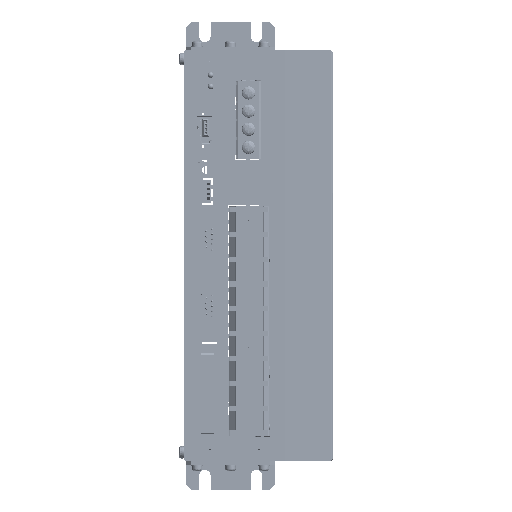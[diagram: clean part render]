
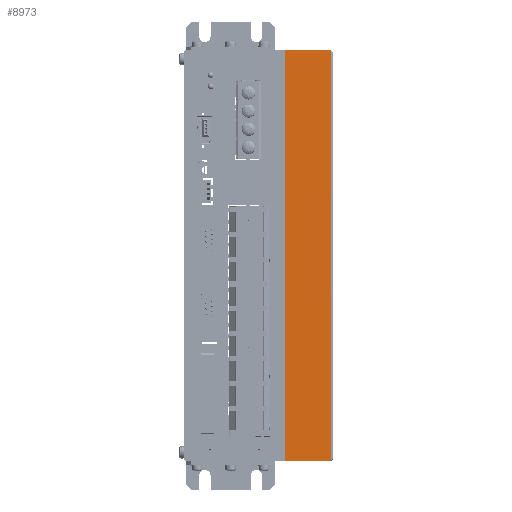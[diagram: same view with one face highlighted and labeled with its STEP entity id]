
A CAD part, top view. The second image highlights one B-rep face of the part: STEP entity #8973.
In plain terms, the highlighted planar face has unit normal (0.01, 0, 1).
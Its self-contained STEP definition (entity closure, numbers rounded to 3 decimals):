
#1729=CARTESIAN_POINT('',(62.209,-98.027,164.172));
#1730=VERTEX_POINT('',#1729);
#1738=CARTESIAN_POINT('',(61.951,-98.285,164.175));
#1739=VERTEX_POINT('',#1738);
#1740=CARTESIAN_POINT('',(62.209,-98.027,164.172));
#1741=DIRECTION('',(-0.707,-0.707,0.007));
#1742=VECTOR('',#1741,0.364);
#1743=LINE('',#1740,#1742);
#1744=EDGE_CURVE('',#1730,#1739,#1743,.T.);
#3046=CARTESIAN_POINT('',(61.951,116.715,164.175));
#3047=VERTEX_POINT('',#3046);
#3054=CARTESIAN_POINT('',(62.209,116.458,164.172));
#3055=VERTEX_POINT('',#3054);
#3056=CARTESIAN_POINT('',(61.951,116.715,164.175));
#3057=DIRECTION('',(0.707,-0.707,-0.007));
#3058=VECTOR('',#3057,0.364);
#3059=LINE('',#3056,#3058);
#3060=EDGE_CURVE('',#3047,#3055,#3059,.T.);
#5673=CARTESIAN_POINT('',(62.209,-98.027,164.172));
#5674=DIRECTION('',(0.,1.,0.));
#5675=VECTOR('',#5674,214.485);
#5676=LINE('',#5673,#5675);
#5677=EDGE_CURVE('',#1730,#3055,#5676,.T.);
#5713=CARTESIAN_POINT('',(37.951,116.715,164.415));
#5714=VERTEX_POINT('',#5713);
#5722=CARTESIAN_POINT('',(37.951,-98.285,164.415));
#5723=VERTEX_POINT('',#5722);
#5730=CARTESIAN_POINT('',(37.951,-98.285,164.415));
#5731=DIRECTION('',(0.,1.,0.));
#5732=VECTOR('',#5731,215.);
#5733=LINE('',#5730,#5732);
#5734=EDGE_CURVE('',#5723,#5714,#5733,.T.);
#8950=CARTESIAN_POINT('',(50.08,-98.285,164.294));
#8951=DIRECTION('',(-0.01,0.,-1.));
#8952=DIRECTION('',(1.,0.,-0.01));
#8953=AXIS2_PLACEMENT_3D('',#8950,#8951,#8952);
#8954=PLANE('',#8953);
#8955=ORIENTED_EDGE('',*,*,#3060,.F.);
#8956=CARTESIAN_POINT('',(61.951,116.715,164.175));
#8957=DIRECTION('',(-1.,0.,0.01));
#8958=VECTOR('',#8957,24.001);
#8959=LINE('',#8956,#8958);
#8960=EDGE_CURVE('',#3047,#5714,#8959,.T.);
#8961=ORIENTED_EDGE('',*,*,#8960,.T.);
#8962=ORIENTED_EDGE('',*,*,#5734,.F.);
#8963=CARTESIAN_POINT('',(61.951,-98.285,164.175));
#8964=DIRECTION('',(-1.,0.,0.01));
#8965=VECTOR('',#8964,24.001);
#8966=LINE('',#8963,#8965);
#8967=EDGE_CURVE('',#1739,#5723,#8966,.T.);
#8968=ORIENTED_EDGE('',*,*,#8967,.F.);
#8969=ORIENTED_EDGE('',*,*,#1744,.F.);
#8970=ORIENTED_EDGE('',*,*,#5677,.T.);
#8971=EDGE_LOOP('',(#8955,#8961,#8962,#8968,#8969,#8970));
#8972=FACE_BOUND('',#8971,.T.);
#8973=ADVANCED_FACE('',(#8972),#8954,.F.);
